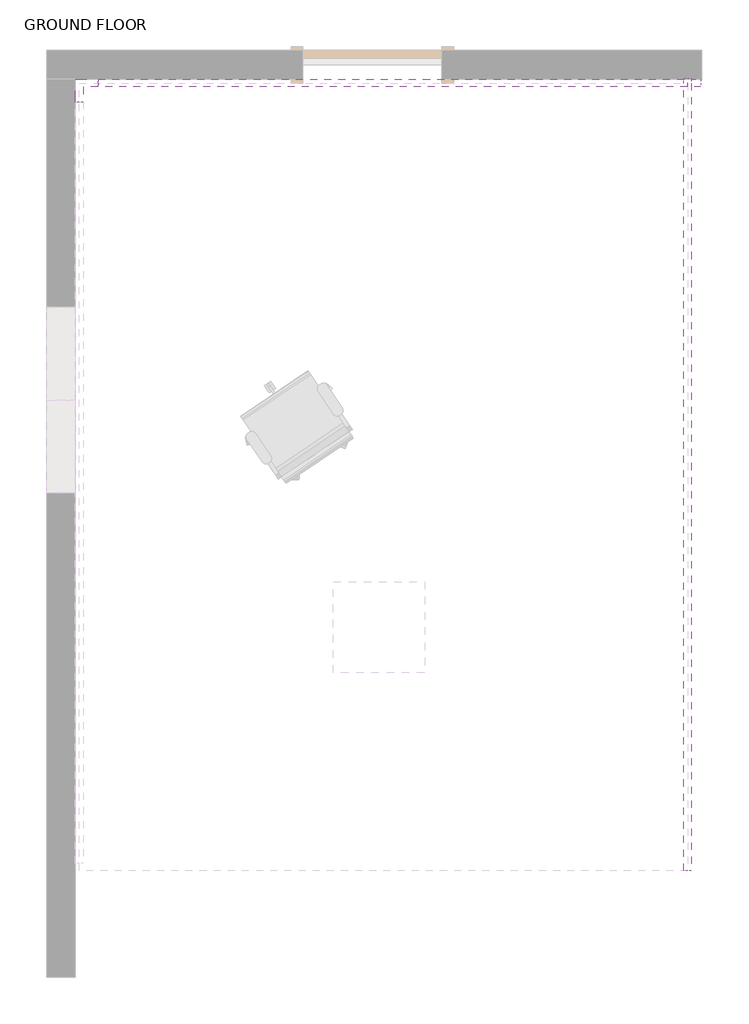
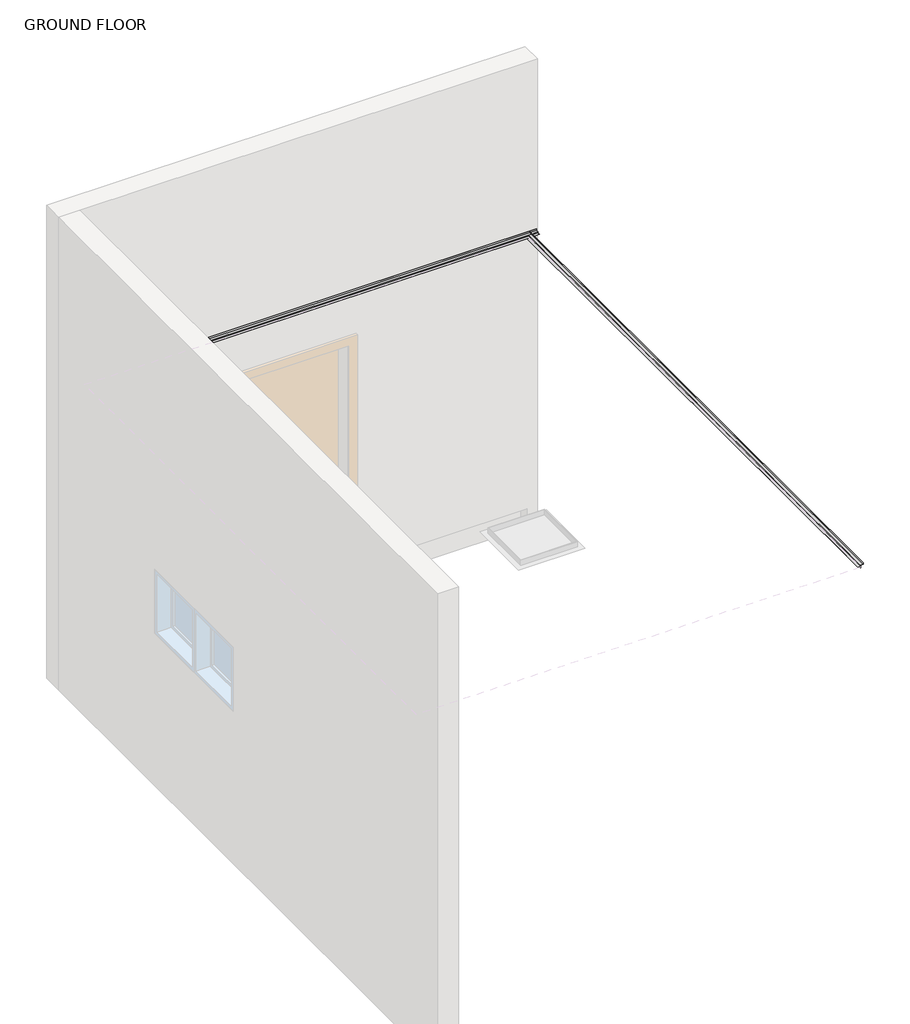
# One storey, part 3 of 3: 3 proxies.
"""IFC4 building model written with IfcOpenShell, lengths in millimetres."""

from ifc_helpers import new_model, si_unit, origin, place, context, project, spatial, faceted_brep, transform, mapped, element, save
from components import ps2_corner_trim_internal_befc4d37

model = new_model("IFC4")

# Units and contexts
model_context = context("Model", 3, world=origin())
ifc_project = project(units=[si_unit("LENGTHUNIT", "METRE", prefix="MILLI")], contexts=[model_context])

# Site, building, storey
site = spatial("IfcSite", under=ifc_project)
building = spatial("IfcBuilding", under=site)
storey = spatial("IfcBuildingStorey", under=building, Name="GROUND FLOOR", Elevation=0.0)

# Proxies
placement = place(None, origin())
ps2_corner_trim_internal_shape = ps2_corner_trim_internal_befc4d37(model_context)
element("IfcBuildingElementProxy", 1, Name="PS2 Corner Trim - Internal : Pelican Systems Plaster Trim 25 x 20", ObjectType="PS2 Corner Trim - Internal : Pelican Systems Plaster Trim 25 x 20", at=placement, inside=storey, context=model_context, shape_type="MappedRepresentation", body=[
    mapped(ps2_corner_trim_internal_shape, transform((112972.7345529, 54587.9193804, 2620.0), x_axis=(1.0, 0.0, 0.0), y_axis=(0.0, 1.0, 0.0), z_axis=(0.0, 0.0, 1.0))),
])
element("IfcBuildingElementProxy", 2, Name="TR02 : Pelican Systems Plaster Trim 25 x 20", ObjectType="TR02 : Pelican Systems Plaster Trim 25 x 20", at=placement, inside=storey, context=model_context, shape_type="Brep", body=[
    faceted_brep([(117052.9041836, 54617.9193804, 2636.0), (117052.9041836, 54616.9193804, 2636.0), (117052.9041836, 54616.9193804, 2621.0), (117052.9041836, 54591.9193804, 2621.0), (117052.9041836, 54591.9193804, 2612.0), (117052.9041836, 54567.9193804, 2612.0), (117052.9041836, 54567.9193804, 2611.0), (117052.9041836, 54591.9193804, 2611.0), (117052.9041836, 54591.9193804, 2600.0), (117052.9041836, 54592.9193804, 2600.0), (117052.9041836, 54592.9193804, 2620.0), (117052.9041836, 54617.9193804, 2620.0), (113092.7345529, 54617.9193804, 2636.0), (113092.7345529, 54617.9193804, 2620.0), (113092.7345529, 54592.9193804, 2620.0), (113092.7345529, 54592.9193804, 2600.0), (113092.7345529, 54591.9193804, 2600.0), (113092.7345529, 54591.9193804, 2611.0), (113092.7345529, 54567.9193804, 2611.0), (113092.7345529, 54567.9193804, 2612.0), (113092.7345529, 54591.9193804, 2612.0), (113092.7345529, 54591.9193804, 2621.0), (113092.7345529, 54616.9193804, 2621.0), (113092.7345529, 54616.9193804, 2636.0), (116991.7345529, 54617.9193804, 2620.0), (116991.7345529, 54617.9193804, 2635.0), (116990.7345529, 54617.9193804, 2635.0), (116990.7345529, 54617.9193804, 2620.0), (116990.7345529, 54591.9193804, 2620.0), (116965.7345529, 54591.9193804, 2620.0), (116965.7345529, 54592.9193804, 2620.0), (116965.7345529, 54592.9193804, 2611.0), (116941.7345529, 54592.9193804, 2611.0), (116941.7345529, 54592.9193804, 2610.0), (116965.7345529, 54592.9193804, 2610.0), (116965.7345529, 54592.9193804, 2600.0), (116965.7345529, 54591.9193804, 2600.0), (116965.7345529, 54591.9193804, 2612.0), (116990.7345529, 54591.9193804, 2621.0), (116990.7345529, 54616.9193804, 2621.0), (116990.7345529, 54616.9193804, 2635.0), (116991.7345529, 54616.9193804, 2635.0), (116991.7345529, 54616.9193804, 2621.0), (116965.7345529, 54591.9193804, 2610.0), (116941.7345529, 54591.9193804, 2610.0), (116941.7345529, 54591.9193804, 2611.0), (116965.7345529, 54567.9193804, 2611.0), (116965.7345529, 54567.9193804, 2612.0), (116991.7345529, 54592.9193804, 2620.0), (116991.7345529, 54592.9193804, 2619.0), (116991.7345529, 54591.9193804, 2619.0), (116991.7345529, 54591.9193804, 2621.0), (116966.7345529, 54592.9193804, 2619.0), (116966.7345529, 54591.9193804, 2619.0), (116966.7345529, 54592.9193804, 2600.0), (116966.7345529, 54591.9193804, 2600.0), (116966.7345529, 54591.9193804, 2611.0), (116966.7345529, 54567.9193804, 2611.0), (116966.7345529, 54567.9193804, 2612.0), (116966.7345529, 54591.9193804, 2612.0)], [[[0, 1, 2, 3, 4, 5, 6, 7, 8, 9, 10, 11]], [[12, 13, 14, 15, 16, 17, 18, 19, 20, 21, 22, 23]], [[0, 11, 24, 25, 26, 27, 13, 12]], [[14, 13, 27, 28, 29, 30]], [[15, 14, 30, 31, 32, 33, 34, 35]], [[16, 15, 35, 36]], [[21, 20, 37, 29, 28, 38]], [[22, 21, 38, 39]], [[2, 1, 23, 22, 39, 40, 41, 42]], [[1, 0, 12, 23]], [[17, 16, 36, 43, 44, 45]], [[18, 17, 45, 32, 31, 46]], [[19, 18, 46, 47]], [[20, 19, 47, 37]], [[43, 34, 33, 44]], [[44, 33, 32, 45]], [[41, 25, 24, 48, 49, 50, 51, 42]], [[50, 49, 52, 53]], [[53, 52, 54, 55, 56, 57, 58, 59]], [[46, 31, 30, 29, 37, 47]], [[28, 27, 26, 40, 39, 38]], [[25, 41, 40, 26]], [[34, 43, 36, 35]], [[11, 10, 48, 24]], [[10, 9, 54, 52, 49, 48]], [[9, 8, 55, 54]], [[4, 3, 51, 50, 53, 59]], [[3, 2, 42, 51]], [[8, 7, 56, 55]], [[7, 6, 57, 56]], [[6, 5, 58, 57]], [[5, 4, 59, 58]]]),
])
element("IfcBuildingElementProxy", 3, Name="TR02 : Pelican Systems Plaster Trim 25 x 20", ObjectType="TR02 : Pelican Systems Plaster Trim 25 x 20", at=placement, inside=storey, context=model_context, shape_type="Brep", body=[
    faceted_brep([(116991.7345529, 49412.9193804, 2635.0), (116990.7345529, 49412.9193804, 2635.0), (116990.7345529, 49412.9193804, 2620.0), (116965.7345529, 49412.9193804, 2620.0), (116965.7345529, 49412.9193804, 2611.0), (116941.7345529, 49412.9193804, 2611.0), (116941.7345529, 49412.9193804, 2610.0), (116965.7345529, 49412.9193804, 2610.0), (116965.7345529, 49412.9193804, 2599.0), (116966.7345529, 49412.9193804, 2599.0), (116966.7345529, 49412.9193804, 2619.0), (116991.7345529, 49412.9193804, 2619.0), (116991.7345529, 54622.9193804, 2635.0), (116991.7345529, 54622.9193804, 2619.0), (116966.7345529, 54622.9193804, 2619.0), (116966.7345529, 54622.9193804, 2599.0), (116965.7345529, 54622.9193804, 2599.0), (116965.7345529, 54622.9193804, 2610.0), (116941.7345529, 54622.9193804, 2610.0), (116941.7345529, 54622.9193804, 2611.0), (116965.7345529, 54622.9193804, 2611.0), (116965.7345529, 54622.9193804, 2620.0), (116990.7345529, 54622.9193804, 2620.0), (116990.7345529, 54622.9193804, 2635.0), (116991.7345529, 54591.9193804, 2619.0), (116991.7345529, 54592.9193804, 2619.0), (116991.7345529, 54617.9193804, 2635.0), (116991.7345529, 54616.9193804, 2635.0), (116966.7345529, 54591.9193804, 2619.0), (116966.7345529, 54592.9193804, 2619.0), (116965.7345529, 54591.9193804, 2620.0), (116965.7345529, 54592.9193804, 2620.0), (116965.7345529, 54592.9193804, 2611.0), (116965.7345529, 54567.9193804, 2611.0), (116990.7345529, 54591.9193804, 2620.0), (116990.7345529, 54617.9193804, 2620.0), (116990.7345529, 54616.9193804, 2635.0), (116990.7345529, 54617.9193804, 2635.0), (116965.7345529, 54591.9193804, 2610.0), (116965.7345529, 54592.9193804, 2610.0), (116941.7345529, 54591.9193804, 2610.0), (116941.7345529, 54592.9193804, 2610.0), (116941.7345529, 54591.9193804, 2611.0), (116941.7345529, 54592.9193804, 2611.0)], [[[0, 1, 2, 3, 4, 5, 6, 7, 8, 9, 10, 11]], [[12, 13, 14, 15, 16, 17, 18, 19, 20, 21, 22, 23]], [[11, 24, 25, 13, 12, 26, 27, 0]], [[10, 28, 29, 14, 13, 25, 24, 11]], [[9, 15, 14, 29, 28, 10]], [[8, 16, 15, 9]], [[3, 30, 31, 21, 20, 32, 33, 4]], [[2, 34, 35, 22, 21, 31, 30, 3]], [[1, 36, 37, 23, 22, 35, 34, 2]], [[0, 27, 26, 12, 23, 37, 36, 1]], [[7, 38, 39, 17, 16, 8]], [[6, 40, 41, 18, 17, 39, 38, 7]], [[5, 42, 43, 19, 18, 41, 40, 6]], [[4, 33, 32, 20, 19, 43, 42, 5]]]),
])

save(model, "model.ifc")
